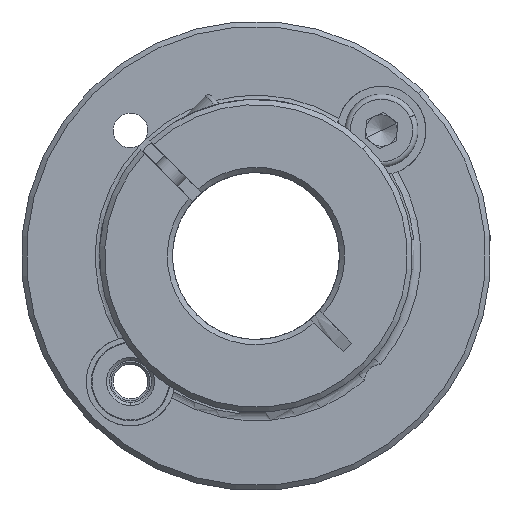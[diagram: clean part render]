
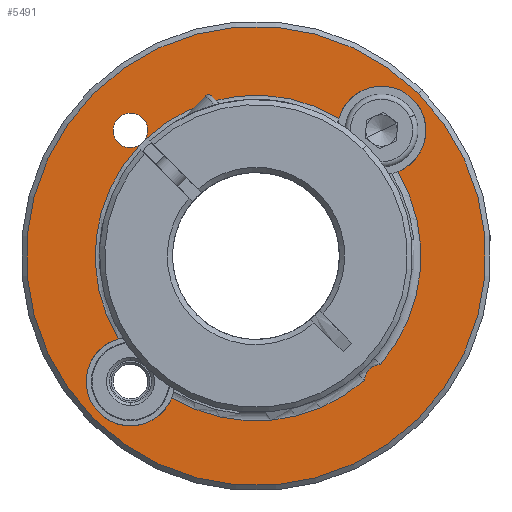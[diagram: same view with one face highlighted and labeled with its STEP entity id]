
A CAD part, front view. The second image highlights one B-rep face of the part: STEP entity #5491.
In plain terms, the highlighted planar face has unit normal (0, -1, 0).
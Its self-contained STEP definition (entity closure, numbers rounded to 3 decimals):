
#122 = VERTEX_POINT ( 'NONE', #4310 ) ;
#158 = AXIS2_PLACEMENT_3D ( 'NONE', #3292, #8582, #4824 ) ;
#223 = CIRCLE ( 'NONE', #6870, 1.65 ) ;
#312 = DIRECTION ( 'NONE',  ( 0., -1., 0. ) ) ;
#363 = DIRECTION ( 'NONE',  ( 0., 1., 0. ) ) ;
#517 = EDGE_CURVE ( 'NONE', #5440, #122, #634, .T. ) ;
#603 = DIRECTION ( 'NONE',  ( 0., 0., -1. ) ) ;
#634 = CIRCLE ( 'NONE', #3679, 22. ) ;
#687 = EDGE_CURVE ( 'NONE', #9003, #5623, #7086, .T. ) ;
#779 = DIRECTION ( 'NONE',  ( 0., 1., 0. ) ) ;
#794 = VERTEX_POINT ( 'NONE', #6913 ) ;
#873 = CARTESIAN_POINT ( 'NONE',  ( -9.653, -8.743, 62. ) ) ;
#901 = DIRECTION ( 'NONE',  ( 0., 1., 0. ) ) ;
#909 = CIRCLE ( 'NONE', #8218, 4.25 ) ;
#1012 = EDGE_CURVE ( 'NONE', #122, #5440, #1222, .T. ) ;
#1187 = FACE_OUTER_BOUND ( 'NONE', #8459, .T. ) ;
#1215 = VERTEX_POINT ( 'NONE', #8343 ) ;
#1222 = CIRCLE ( 'NONE', #5552, 22. ) ;
#1373 = CIRCLE ( 'NONE', #158, 4.25 ) ;
#1444 = ORIENTED_EDGE ( 'NONE', *, *, #3447, .T. ) ;
#1602 = CARTESIAN_POINT ( 'NONE',  ( 2.367, -8.743, 49.979 ) ) ;
#1613 = VERTEX_POINT ( 'NONE', #6740 ) ;
#1633 = DIRECTION ( 'NONE',  ( 0., 1., 0. ) ) ;
#1685 = CIRCLE ( 'NONE', #9329, 1.65 ) ;
#1806 = DIRECTION ( 'NONE',  ( 0.707, 0., 0.707 ) ) ;
#1922 = EDGE_CURVE ( 'NONE', #5623, #5744, #1373, .T. ) ;
#1999 = ORIENTED_EDGE ( 'NONE', *, *, #517, .T. ) ;
#2241 = ORIENTED_EDGE ( 'NONE', *, *, #1922, .T. ) ;
#2293 = CARTESIAN_POINT ( 'NONE',  ( -9.653, -8.743, 37.958 ) ) ;
#2324 = ORIENTED_EDGE ( 'NONE', *, *, #687, .T. ) ;
#2583 = VERTEX_POINT ( 'NONE', #4391 ) ;
#2647 = CARTESIAN_POINT ( 'NONE',  ( 2.367, -8.743, 49.979 ) ) ;
#2701 = VERTEX_POINT ( 'NONE', #5639 ) ;
#2752 = CIRCLE ( 'NONE', #7308, 15.4 ) ;
#2878 = CIRCLE ( 'NONE', #6197, 1.65 ) ;
#2987 = CIRCLE ( 'NONE', #3065, 15.4 ) ;
#3015 = EDGE_CURVE ( 'NONE', #3640, #794, #2878, .T. ) ;
#3038 = DIRECTION ( 'NONE',  ( 0., -1., 0. ) ) ;
#3057 = DIRECTION ( 'NONE',  ( 0.707, 0., 0.707 ) ) ;
#3065 = AXIS2_PLACEMENT_3D ( 'NONE', #3726, #779, #9055 ) ;
#3093 = DIRECTION ( 'NONE',  ( 0.707, 0., 0.707 ) ) ;
#3107 = ORIENTED_EDGE ( 'NONE', *, *, #3015, .T. ) ;
#3123 = ORIENTED_EDGE ( 'NONE', *, *, #7333, .T. ) ;
#3213 = VERTEX_POINT ( 'NONE', #7214 ) ;
#3269 = EDGE_CURVE ( 'NONE', #5744, #1613, #3312, .T. ) ;
#3286 = AXIS2_PLACEMENT_3D ( 'NONE', #2293, #6062, #8981 ) ;
#3292 = CARTESIAN_POINT ( 'NONE',  ( 14.388, -8.743, 62. ) ) ;
#3312 = CIRCLE ( 'NONE', #6736, 15.8 ) ;
#3447 = EDGE_CURVE ( 'NONE', #8715, #9003, #2752, .T. ) ;
#3529 = FACE_BOUND ( 'NONE', #6671, .T. ) ;
#3531 = EDGE_CURVE ( 'NONE', #7370, #3640, #2987, .T. ) ;
#3538 = DIRECTION ( 'NONE',  ( 0., 1., 0. ) ) ;
#3640 = VERTEX_POINT ( 'NONE', #6981 ) ;
#3679 = AXIS2_PLACEMENT_3D ( 'NONE', #4822, #312, #4918 ) ;
#3726 = CARTESIAN_POINT ( 'NONE',  ( 2.367, -8.743, 49.979 ) ) ;
#3759 = CARTESIAN_POINT ( 'NONE',  ( 17.393, -8.743, 65.005 ) ) ;
#3789 = ORIENTED_EDGE ( 'NONE', *, *, #3269, .T. ) ;
#4022 = AXIS2_PLACEMENT_3D ( 'NONE', #4869, #363, #5625 ) ;
#4180 = DIRECTION ( 'NONE',  ( 0.707, 0., 0.707 ) ) ;
#4186 = CARTESIAN_POINT ( 'NONE',  ( -10.83, -8.743, 42.042 ) ) ;
#4310 = CARTESIAN_POINT ( 'NONE',  ( -13.189, -8.743, 34.423 ) ) ;
#4391 = CARTESIAN_POINT ( 'NONE',  ( -8.487, -8.743, 63.167 ) ) ;
#4395 = DIRECTION ( 'NONE',  ( 0., -1., 0. ) ) ;
#4454 = DIRECTION ( 'NONE',  ( 0., 1., 0. ) ) ;
#4595 = ORIENTED_EDGE ( 'NONE', *, *, #9373, .T. ) ;
#4655 = EDGE_CURVE ( 'NONE', #3213, #1215, #9569, .T. ) ;
#4676 = DIRECTION ( 'NONE',  ( 0.707, 0., 0.707 ) ) ;
#4779 = CARTESIAN_POINT ( 'NONE',  ( -9.653, -8.743, 62. ) ) ;
#4790 = EDGE_CURVE ( 'NONE', #1613, #3213, #1685, .T. ) ;
#4822 = CARTESIAN_POINT ( 'NONE',  ( 2.367, -8.743, 49.979 ) ) ;
#4824 = DIRECTION ( 'NONE',  ( 0.707, 0., 0.707 ) ) ;
#4869 = CARTESIAN_POINT ( 'NONE',  ( -9.653, -8.743, 62. ) ) ;
#4918 = DIRECTION ( 'NONE',  ( 0.707, 0., 0.707 ) ) ;
#5023 = CARTESIAN_POINT ( 'NONE',  ( 14.388, -8.743, 62. ) ) ;
#5096 = CARTESIAN_POINT ( 'NONE',  ( 14.388, -8.743, 37.958 ) ) ;
#5236 = CARTESIAN_POINT ( 'NONE',  ( -8.247, -8.743, 61.137 ) ) ;
#5440 = VERTEX_POINT ( 'NONE', #7656 ) ;
#5491 = ADVANCED_FACE ( 'NONE', ( #3529, #1187 ), #8915, .T. ) ;
#5552 = AXIS2_PLACEMENT_3D ( 'NONE', #6755, #4395, #9761 ) ;
#5623 = VERTEX_POINT ( 'NONE', #3759 ) ;
#5625 = DIRECTION ( 'NONE',  ( 0.707, 0., 0.707 ) ) ;
#5639 = CARTESIAN_POINT ( 'NONE',  ( -12.659, -8.743, 34.953 ) ) ;
#5744 = VERTEX_POINT ( 'NONE', #7263 ) ;
#6062 = DIRECTION ( 'NONE',  ( 0., 1., 0. ) ) ;
#6197 = AXIS2_PLACEMENT_3D ( 'NONE', #873, #901, #3093 ) ;
#6280 = CARTESIAN_POINT ( 'NONE',  ( -9.653, -8.743, 37.958 ) ) ;
#6293 = DIRECTION ( 'NONE',  ( 0., 1., 0. ) ) ;
#6434 = CARTESIAN_POINT ( 'NONE',  ( 10.304, -8.743, 63.176 ) ) ;
#6671 = EDGE_LOOP ( 'NONE', ( #8560, #9472, #4595, #8325, #9308, #3107, #7414, #3123, #1444, #2324, #2241, #3789 ) ) ;
#6736 = AXIS2_PLACEMENT_3D ( 'NONE', #2647, #8668, #4180 ) ;
#6740 = CARTESIAN_POINT ( 'NONE',  ( 14.285, -8.743, 39.605 ) ) ;
#6755 = CARTESIAN_POINT ( 'NONE',  ( 2.367, -8.743, 49.979 ) ) ;
#6817 = CIRCLE ( 'NONE', #3286, 4.25 ) ;
#6836 = DIRECTION ( 'NONE',  ( 0.707, 0., 0.707 ) ) ;
#6870 = AXIS2_PLACEMENT_3D ( 'NONE', #4779, #6293, #1806 ) ;
#6913 = CARTESIAN_POINT ( 'NONE',  ( -10.82, -8.743, 60.833 ) ) ;
#6981 = CARTESIAN_POINT ( 'NONE',  ( -8.79, -8.743, 60.594 ) ) ;
#7086 = CIRCLE ( 'NONE', #9224, 4.25 ) ;
#7184 = AXIS2_PLACEMENT_3D ( 'NONE', #1602, #1633, #6836 ) ;
#7214 = CARTESIAN_POINT ( 'NONE',  ( 12.742, -8.743, 38.062 ) ) ;
#7263 = CARTESIAN_POINT ( 'NONE',  ( 15.952, -8.743, 58.048 ) ) ;
#7308 = AXIS2_PLACEMENT_3D ( 'NONE', #8968, #4454, #3057 ) ;
#7333 = EDGE_CURVE ( 'NONE', #2583, #8715, #223, .T. ) ;
#7370 = VERTEX_POINT ( 'NONE', #4186 ) ;
#7414 = ORIENTED_EDGE ( 'NONE', *, *, #7947, .T. ) ;
#7628 = CIRCLE ( 'NONE', #4022, 1.65 ) ;
#7656 = CARTESIAN_POINT ( 'NONE',  ( 17.924, -8.743, 65.536 ) ) ;
#7701 = ORIENTED_EDGE ( 'NONE', *, *, #1012, .T. ) ;
#7821 = EDGE_CURVE ( 'NONE', #2701, #7370, #909, .T. ) ;
#7947 = EDGE_CURVE ( 'NONE', #794, #2583, #7628, .T. ) ;
#8218 = AXIS2_PLACEMENT_3D ( 'NONE', #6280, #8500, #4676 ) ;
#8259 = CARTESIAN_POINT ( 'NONE',  ( 14.388, -8.743, 37.958 ) ) ;
#8325 = ORIENTED_EDGE ( 'NONE', *, *, #7821, .T. ) ;
#8343 = CARTESIAN_POINT ( 'NONE',  ( -5.701, -8.743, 36.395 ) ) ;
#8459 = EDGE_LOOP ( 'NONE', ( #7701, #1999 ) ) ;
#8500 = DIRECTION ( 'NONE',  ( 0., 1., 0. ) ) ;
#8560 = ORIENTED_EDGE ( 'NONE', *, *, #4790, .T. ) ;
#8582 = DIRECTION ( 'NONE',  ( 0., 1., 0. ) ) ;
#8668 = DIRECTION ( 'NONE',  ( 0., 1., 0. ) ) ;
#8715 = VERTEX_POINT ( 'NONE', #5236 ) ;
#8819 = DIRECTION ( 'NONE',  ( 0.707, 0., 0.707 ) ) ;
#8864 = DIRECTION ( 'NONE',  ( 0., -1., 0. ) ) ;
#8915 = PLANE ( 'NONE',  #9603 ) ;
#8968 = CARTESIAN_POINT ( 'NONE',  ( 2.367, -8.743, 49.979 ) ) ;
#8981 = DIRECTION ( 'NONE',  ( 0.707, 0., 0.707 ) ) ;
#9003 = VERTEX_POINT ( 'NONE', #6434 ) ;
#9055 = DIRECTION ( 'NONE',  ( 0.707, 0., 0.707 ) ) ;
#9224 = AXIS2_PLACEMENT_3D ( 'NONE', #5023, #3538, #8819 ) ;
#9308 = ORIENTED_EDGE ( 'NONE', *, *, #3531, .T. ) ;
#9329 = AXIS2_PLACEMENT_3D ( 'NONE', #5096, #8864, #603 ) ;
#9373 = EDGE_CURVE ( 'NONE', #1215, #2701, #6817, .T. ) ;
#9472 = ORIENTED_EDGE ( 'NONE', *, *, #4655, .T. ) ;
#9569 = CIRCLE ( 'NONE', #7184, 15.8 ) ;
#9603 = AXIS2_PLACEMENT_3D ( 'NONE', #8259, #3038, #9700 ) ;
#9700 = DIRECTION ( 'NONE',  ( -0.989, 0., -0.145 ) ) ;
#9761 = DIRECTION ( 'NONE',  ( 0.707, 0., 0.707 ) ) ;
